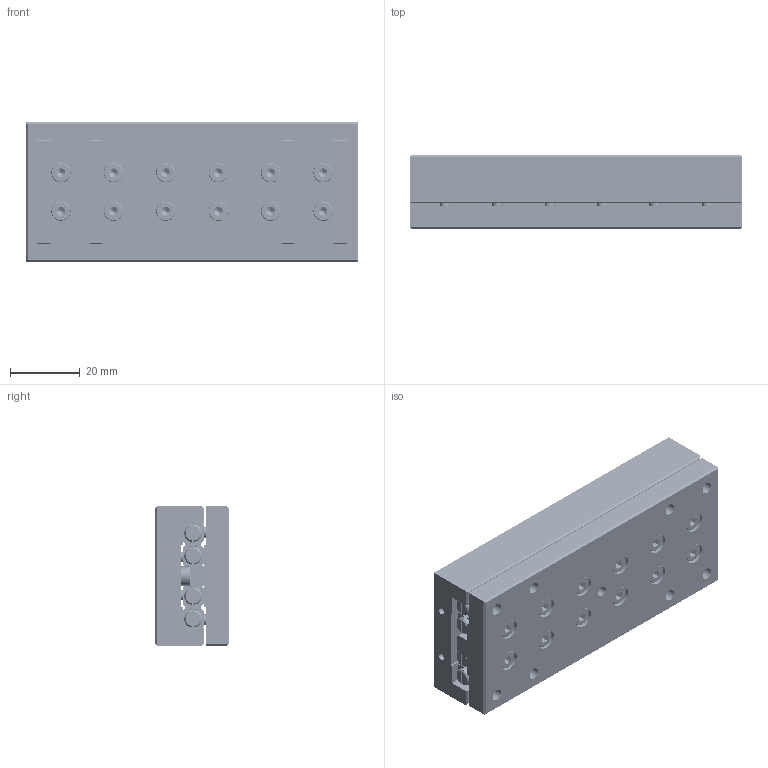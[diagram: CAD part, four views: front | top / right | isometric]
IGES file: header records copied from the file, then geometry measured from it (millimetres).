
Start section: SolidWorks IGES file using analytic representation for surfaces
Global section: file name: C:\Documents and Settings\IanO.IANOHOME\My Documents\Wix and Auto CAD Work\CAD Models\Parametric Models\Auto Models\L1020\L1020_IGES\L1020.040-095.igs; native system: SolidWorks 2009; preprocessor: SolidWorks 2009; author: IanO; date: 110922.162336; units: millimetre
Bounding box: 95 x 21 x 40 mm (x, y, z)
Surface area: 43298 mm2 (no closed solid volume)
Topology: 0 solids, 0 shells, 1721 faces, 22572 edges, 22512 vertices
Faces by surface type: bspline 1061, revolution 660
